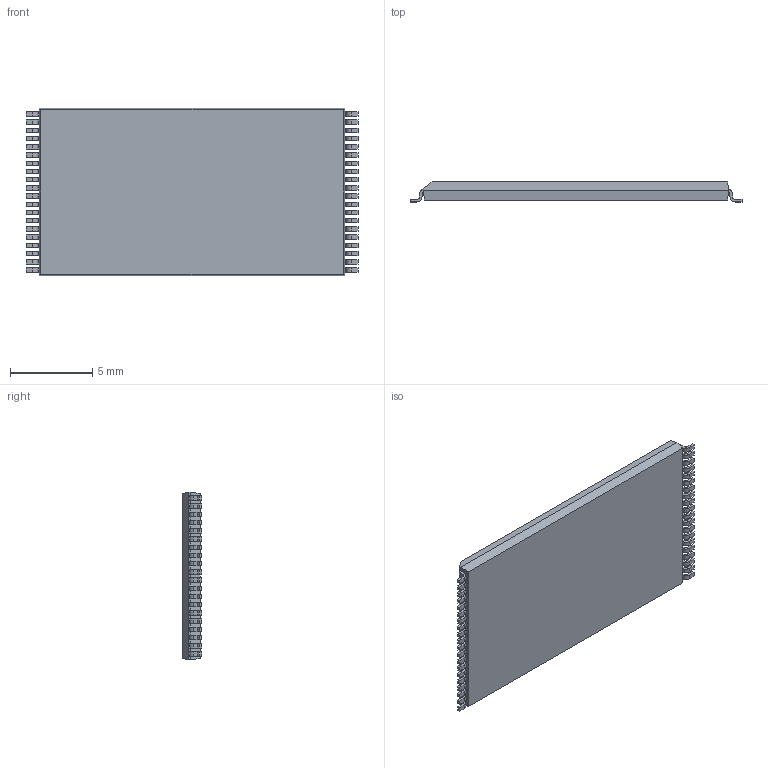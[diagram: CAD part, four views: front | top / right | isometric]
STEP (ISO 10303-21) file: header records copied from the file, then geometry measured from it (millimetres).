
FILE_DESCRIPTION (( 'STEP AP214' ), '1' );
FILE_NAME ('TSSOP50P2000X120-40_MO-142.CD.STEP', '2014-10-29T11:01:28', ( 'Tester2' ), ( '' ), 'SwSTEP 2.0', 'SolidWorks 2012', '' );
FILE_SCHEMA (( 'AUTOMOTIVE_DESIGN' ));
Length unit declared in the file: millimetre
Products named in the file (1): TSSOP50P2000X120-40_MO-142.CD
Bounding box: 20.2 x 1.2 x 10.2 mm (x, y, z)
Volume: 207.3 mm3; surface area: 472.9 mm2
Topology: 1 solids, 1 shells, 454 faces, 1349 edges, 898 vertices
Faces by surface type: plane 292, cylinder 162
Entity records: 20112 total; most frequent: CARTESIAN_POINT 2702, ORIENTED_EDGE 2698, DIRECTION 2583, EDGE_CURVE 1349, VECTOR 1025, LINE 1025, VERTEX_POINT 898, AXIS2_PLACEMENT_3D 779
